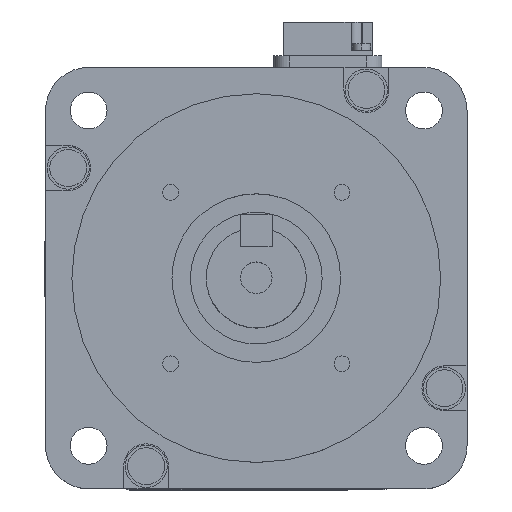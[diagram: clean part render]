
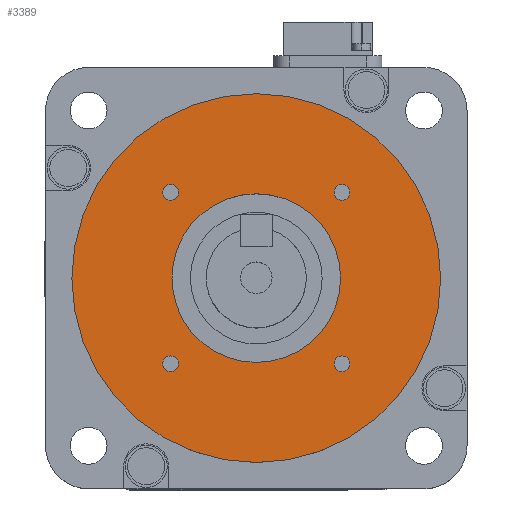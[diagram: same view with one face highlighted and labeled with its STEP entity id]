
A CAD part, top view. The second image highlights one B-rep face of the part: STEP entity #3389.
In plain terms, the highlighted planar face has unit normal (0, 0, 1).
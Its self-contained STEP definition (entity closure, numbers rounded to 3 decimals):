
#175 = CARTESIAN_POINT ( 'NONE',  ( -14.763, -16.263, 3. ) ) ;
#176 = DIRECTION ( 'NONE',  ( -1., 0., 0. ) ) ;
#177 = DIRECTION ( 'NONE',  ( 0., 0., 1. ) ) ;
#178 = CARTESIAN_POINT ( 'NONE',  ( -16.263, -16.263, 3. ) ) ;
#179 = AXIS2_PLACEMENT_3D ( 'NONE', #178, #177, #176 ) ;
#180 = CIRCLE ( 'NONE', #179, 1.5 ) ;
#181 = CARTESIAN_POINT ( 'NONE',  ( -17.763, -16.263, 3. ) ) ;
#213 = CARTESIAN_POINT ( 'NONE',  ( 17.763, -16.263, 3. ) ) ;
#214 = DIRECTION ( 'NONE',  ( 0., -1., 0. ) ) ;
#215 = DIRECTION ( 'NONE',  ( 0., 0., 1. ) ) ;
#216 = CARTESIAN_POINT ( 'NONE',  ( 16.263, -16.263, 3. ) ) ;
#217 = AXIS2_PLACEMENT_3D ( 'NONE', #216, #215, #214 ) ;
#218 = CIRCLE ( 'NONE', #217, 1.5 ) ;
#219 = CARTESIAN_POINT ( 'NONE',  ( 14.763, -16.263, 3. ) ) ;
#268 = CARTESIAN_POINT ( 'NONE',  ( 17.763, 16.263, 3. ) ) ;
#269 = DIRECTION ( 'NONE',  ( 1., 0., 0. ) ) ;
#270 = DIRECTION ( 'NONE',  ( 0., 0., 1. ) ) ;
#271 = CARTESIAN_POINT ( 'NONE',  ( 16.263, 16.263, 3. ) ) ;
#272 = AXIS2_PLACEMENT_3D ( 'NONE', #271, #270, #269 ) ;
#273 = CIRCLE ( 'NONE', #272, 1.5 ) ;
#274 = CARTESIAN_POINT ( 'NONE',  ( 14.763, 16.263, 3. ) ) ;
#297 = CARTESIAN_POINT ( 'NONE',  ( -14.763, 16.263, 3. ) ) ;
#298 = DIRECTION ( 'NONE',  ( 0., 1., 0. ) ) ;
#299 = DIRECTION ( 'NONE',  ( 0., 0., 1. ) ) ;
#300 = CARTESIAN_POINT ( 'NONE',  ( -16.263, 16.263, 3. ) ) ;
#301 = AXIS2_PLACEMENT_3D ( 'NONE', #300, #299, #298 ) ;
#302 = CIRCLE ( 'NONE', #301, 1.5 ) ;
#303 = CARTESIAN_POINT ( 'NONE',  ( -17.763, 16.263, 3. ) ) ;
#488 = DIRECTION ( 'NONE',  ( -1., 0., 0. ) ) ;
#489 = DIRECTION ( 'NONE',  ( 0., 0., -1. ) ) ;
#490 = AXIS2_PLACEMENT_3D ( 'NONE', #497, #489, #488 ) ;
#491 = CIRCLE ( 'NONE', #490, 35. ) ;
#497 = CARTESIAN_POINT ( 'NONE',  ( 0., 0., 3. ) ) ;
#521 = CARTESIAN_POINT ( 'NONE',  ( 16., 0., 3. ) ) ;
#600 = CARTESIAN_POINT ( 'NONE',  ( -16., 0., 3. ) ) ;
#601 = DIRECTION ( 'NONE',  ( -1., 0., 0. ) ) ;
#602 = DIRECTION ( 'NONE',  ( 0., 0., -1. ) ) ;
#603 = AXIS2_PLACEMENT_3D ( 'NONE', #610, #602, #601 ) ;
#604 = CIRCLE ( 'NONE', #603, 16. ) ;
#610 = CARTESIAN_POINT ( 'NONE',  ( 0., 0., 3. ) ) ;
#2183 = VERTEX_POINT ( 'NONE', #6982 ) ;
#3374 = ORIENTED_EDGE ( 'NONE', *, *, #6019, .F. ) ;
#3375 = EDGE_LOOP ( 'NONE', ( #3376, #3378 ) ) ;
#3376 = ORIENTED_EDGE ( 'NONE', *, *, #3377, .F. ) ;
#3377 = EDGE_CURVE ( 'NONE', #6002, #5999, #9578, .T. ) ;
#3378 = ORIENTED_EDGE ( 'NONE', *, *, #6001, .F. ) ;
#3379 = EDGE_LOOP ( 'NONE', ( #3380, #3382 ) ) ;
#3380 = ORIENTED_EDGE ( 'NONE', *, *, #3381, .T. ) ;
#3381 = EDGE_CURVE ( 'NONE', #6176, #6128, #9573, .T. ) ;
#3382 = ORIENTED_EDGE ( 'NONE', *, *, #6175, .T. ) ;
#3383 = EDGE_LOOP ( 'NONE', ( #3433, #3434 ) ) ;
#3389 = ADVANCED_FACE ( 'NONE', ( #9628, #9627, #9626, #9625, #9624, #9623 ), #9622, .T. ) ;
#3390 = EDGE_LOOP ( 'NONE', ( #3391, #3393 ) ) ;
#3391 = ORIENTED_EDGE ( 'NONE', *, *, #3392, .F. ) ;
#3392 = EDGE_CURVE ( 'NONE', #5969, #5966, #9617, .T. ) ;
#3393 = ORIENTED_EDGE ( 'NONE', *, *, #5968, .F. ) ;
#3394 = EDGE_LOOP ( 'NONE', ( #3395, #3445 ) ) ;
#3395 = ORIENTED_EDGE ( 'NONE', *, *, #3396, .F. ) ;
#3396 = EDGE_CURVE ( 'NONE', #5953, #5950, #9612, .T. ) ;
#3433 = ORIENTED_EDGE ( 'NONE', *, *, #6113, .F. ) ;
#3434 = ORIENTED_EDGE ( 'NONE', *, *, #3435, .F. ) ;
#3435 = EDGE_CURVE ( 'NONE', #2183, #5679, #9690, .T. ) ;
#3445 = ORIENTED_EDGE ( 'NONE', *, *, #5952, .F. ) ;
#3446 = EDGE_LOOP ( 'NONE', ( #3447, #3374 ) ) ;
#3447 = ORIENTED_EDGE ( 'NONE', *, *, #3448, .F. ) ;
#3448 = EDGE_CURVE ( 'NONE', #6020, #6017, #9672, .T. ) ;
#5679 = VERTEX_POINT ( 'NONE', #13211 ) ;
#5950 = VERTEX_POINT ( 'NONE', #181 ) ;
#5952 = EDGE_CURVE ( 'NONE', #5950, #5953, #180, .T. ) ;
#5953 = VERTEX_POINT ( 'NONE', #175 ) ;
#5966 = VERTEX_POINT ( 'NONE', #219 ) ;
#5968 = EDGE_CURVE ( 'NONE', #5966, #5969, #218, .T. ) ;
#5969 = VERTEX_POINT ( 'NONE', #213 ) ;
#5999 = VERTEX_POINT ( 'NONE', #274 ) ;
#6001 = EDGE_CURVE ( 'NONE', #5999, #6002, #273, .T. ) ;
#6002 = VERTEX_POINT ( 'NONE', #268 ) ;
#6017 = VERTEX_POINT ( 'NONE', #303 ) ;
#6019 = EDGE_CURVE ( 'NONE', #6017, #6020, #302, .T. ) ;
#6020 = VERTEX_POINT ( 'NONE', #297 ) ;
#6113 = EDGE_CURVE ( 'NONE', #5679, #2183, #491, .T. ) ;
#6128 = VERTEX_POINT ( 'NONE', #521 ) ;
#6175 = EDGE_CURVE ( 'NONE', #6128, #6176, #604, .T. ) ;
#6176 = VERTEX_POINT ( 'NONE', #600 ) ;
#6982 = CARTESIAN_POINT ( 'NONE',  ( 35., 0., 3. ) ) ;
#9413 = DIRECTION ( 'NONE',  ( 0., 0., 1. ) ) ;
#9571 = CARTESIAN_POINT ( 'NONE',  ( 0., 0., 3. ) ) ;
#9572 = AXIS2_PLACEMENT_3D ( 'NONE', #9571, #9635, #9634 ) ;
#9573 = CIRCLE ( 'NONE', #9572, 16. ) ;
#9574 = DIRECTION ( 'NONE',  ( 1., 0., 0. ) ) ;
#9575 = DIRECTION ( 'NONE',  ( 0., 0., 1. ) ) ;
#9576 = CARTESIAN_POINT ( 'NONE',  ( 16.263, 16.263, 3. ) ) ;
#9577 = AXIS2_PLACEMENT_3D ( 'NONE', #9576, #9575, #9574 ) ;
#9578 = CIRCLE ( 'NONE', #9577, 1.5 ) ;
#9608 = DIRECTION ( 'NONE',  ( -1., 0., 0. ) ) ;
#9609 = DIRECTION ( 'NONE',  ( 0., 0., 1. ) ) ;
#9610 = CARTESIAN_POINT ( 'NONE',  ( -16.263, -16.263, 3. ) ) ;
#9611 = AXIS2_PLACEMENT_3D ( 'NONE', #9610, #9609, #9608 ) ;
#9612 = CIRCLE ( 'NONE', #9611, 1.5 ) ;
#9613 = DIRECTION ( 'NONE',  ( 0., -1., 0. ) ) ;
#9614 = DIRECTION ( 'NONE',  ( 0., 0., 1. ) ) ;
#9615 = CARTESIAN_POINT ( 'NONE',  ( 16.263, -16.263, 3. ) ) ;
#9616 = AXIS2_PLACEMENT_3D ( 'NONE', #9615, #9614, #9613 ) ;
#9617 = CIRCLE ( 'NONE', #9616, 1.5 ) ;
#9618 = DIRECTION ( 'NONE',  ( 1., 0., 0. ) ) ;
#9619 = DIRECTION ( 'NONE',  ( 0., 0., 1. ) ) ;
#9620 = CARTESIAN_POINT ( 'NONE',  ( 0., 35., 3. ) ) ;
#9621 = AXIS2_PLACEMENT_3D ( 'NONE', #9620, #9619, #9618 ) ;
#9622 = PLANE ( 'NONE',  #9621 ) ;
#9623 = FACE_OUTER_BOUND ( 'NONE', #3383, .T. ) ;
#9624 = FACE_BOUND ( 'NONE', #3379, .T. ) ;
#9625 = FACE_BOUND ( 'NONE', #3375, .T. ) ;
#9626 = FACE_BOUND ( 'NONE', #3446, .T. ) ;
#9627 = FACE_BOUND ( 'NONE', #3394, .T. ) ;
#9628 = FACE_BOUND ( 'NONE', #3390, .T. ) ;
#9634 = DIRECTION ( 'NONE',  ( -1., 0., 0. ) ) ;
#9635 = DIRECTION ( 'NONE',  ( 0., 0., -1. ) ) ;
#9670 = CARTESIAN_POINT ( 'NONE',  ( -16.263, 16.263, 3. ) ) ;
#9671 = AXIS2_PLACEMENT_3D ( 'NONE', #9670, #9413, #9734 ) ;
#9672 = CIRCLE ( 'NONE', #9671, 1.5 ) ;
#9687 = DIRECTION ( 'NONE',  ( -1., 0., 0. ) ) ;
#9688 = DIRECTION ( 'NONE',  ( 0., 0., -1. ) ) ;
#9689 = AXIS2_PLACEMENT_3D ( 'NONE', #9695, #9688, #9687 ) ;
#9690 = CIRCLE ( 'NONE', #9689, 35. ) ;
#9695 = CARTESIAN_POINT ( 'NONE',  ( 0., 0., 3. ) ) ;
#9734 = DIRECTION ( 'NONE',  ( 0., 1., 0. ) ) ;
#13211 = CARTESIAN_POINT ( 'NONE',  ( -35., 0., 3. ) ) ;
